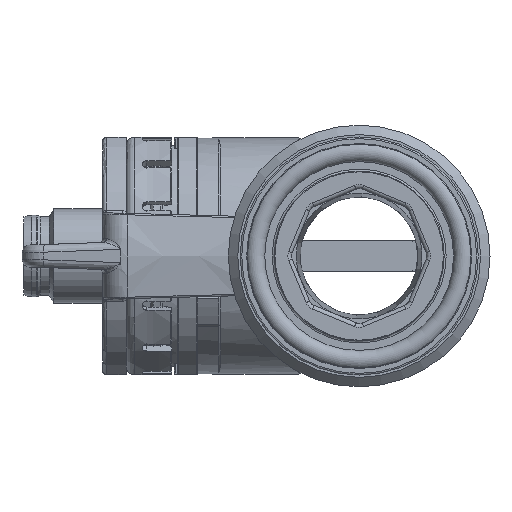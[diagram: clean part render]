
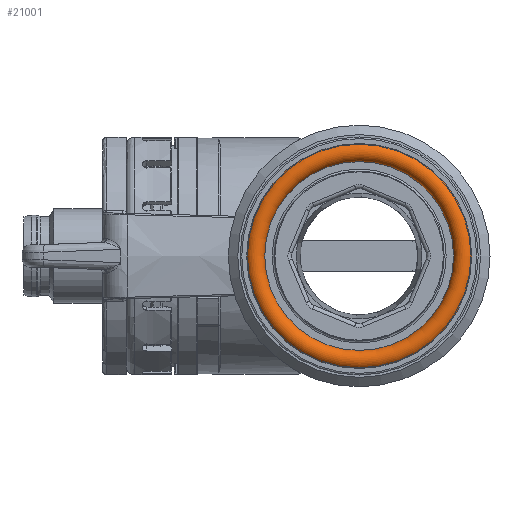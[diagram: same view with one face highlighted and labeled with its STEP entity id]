
A CAD part, left-side view. The second image highlights one B-rep face of the part: STEP entity #21001.
In plain terms, the highlighted toroidal (fillet/blend) face has major radius 13.25 mm and minor radius 1.25 mm.
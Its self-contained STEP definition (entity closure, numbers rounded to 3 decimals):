
#21001=ADVANCED_FACE('',(#21841),#21602,.T.);
#21602=TOROIDAL_SURFACE('',#24808,13.25,1.25);
#21841=FACE_BOUND('',#22000,.T.);
#22000=VERTEX_LOOP('',#22901);
#22901=VERTEX_POINT('',#38401);
#24808=AXIS2_PLACEMENT_3D('',#38402,#28389,#28390);
#28389=DIRECTION('',(-1.,0.,0.));
#28390=DIRECTION('',(0.,0.,1.));
#38401=CARTESIAN_POINT('',(-54.75,-20.,14.5));
#38402=CARTESIAN_POINT('',(-54.75,-20.,0.));
